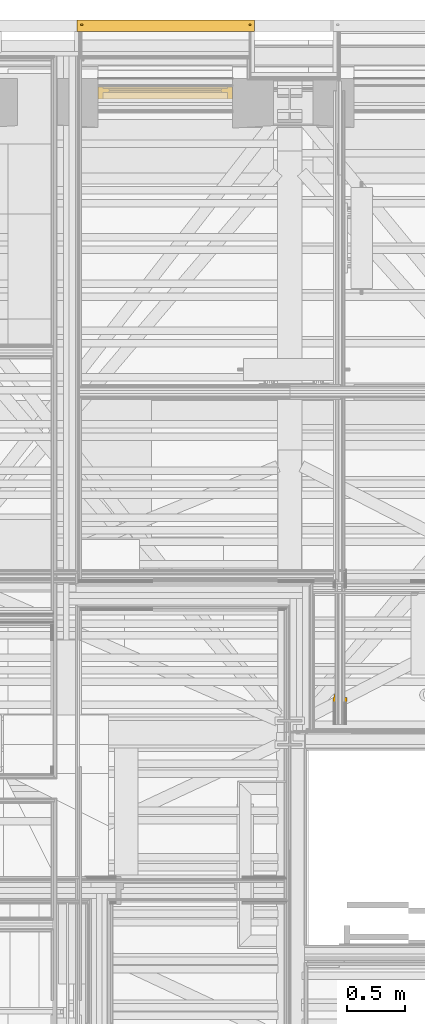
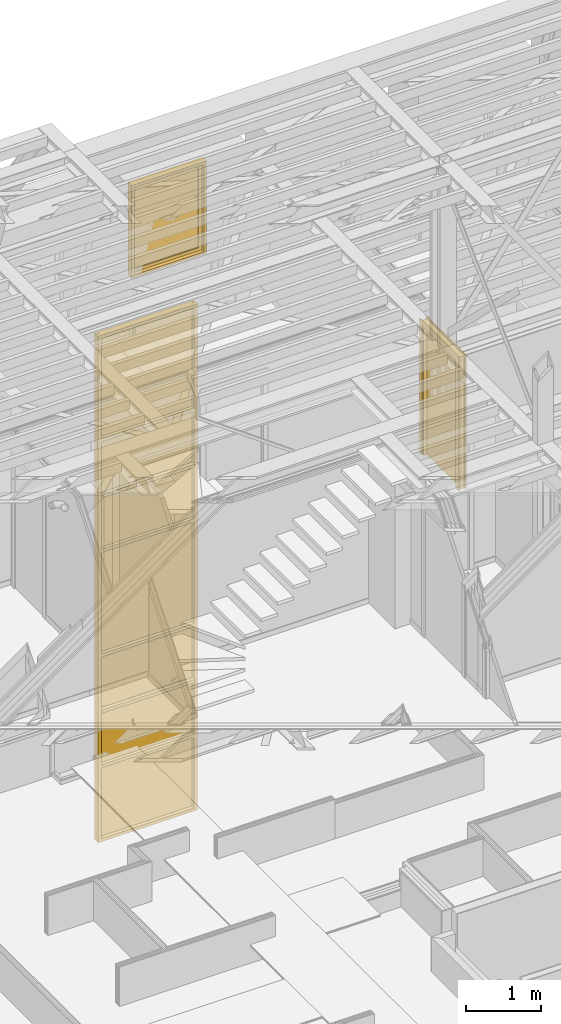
# One storey, part 127 of 183: 1 curtain wall, 1 door, 1 window.
"""IFC2X3 building model written with IfcOpenShell, lengths in metres."""

from ifc_helpers import new_model, entity, si_unit, converted_unit, derived_unit, money_unit, direction, frame, origin_with_axes, place, context, subcontext, project, spatial, faceted_brep, material, type_object, element, save


model = new_model("IFC2X3")

# Units and contexts
model_context = context("Model", 3, precision=1e-05, world=origin_with_axes(), true_north=direction((0.0, 1.0)))
body_context = subcontext(model_context, "Body", "Model", "MODEL_VIEW", scale=1.0)
ifc_project = project(units=[si_unit("LENGTHUNIT", "METRE"), si_unit("AREAUNIT", "SQUARE_METRE"), si_unit("VOLUMEUNIT", "CUBIC_METRE"), si_unit("ABSORBEDDOSEUNIT", "GRAY"), si_unit("AMOUNTOFSUBSTANCEUNIT", "MOLE"), si_unit("DOSEEQUIVALENTUNIT", "SIEVERT"), si_unit("ELECTRICCAPACITANCEUNIT", "FARAD"), si_unit("ELECTRICCHARGEUNIT", "COULOMB"), si_unit("ELECTRICCONDUCTANCEUNIT", "SIEMENS"), si_unit("ELECTRICCURRENTUNIT", "AMPERE"), si_unit("ELECTRICRESISTANCEUNIT", "OHM"), si_unit("ELECTRICVOLTAGEUNIT", "VOLT"), si_unit("ENERGYUNIT", "JOULE"), si_unit("FORCEUNIT", "NEWTON"), si_unit("FREQUENCYUNIT", "HERTZ"), si_unit("ILLUMINANCEUNIT", "LUX"), si_unit("INDUCTANCEUNIT", "HENRY"), si_unit("LUMINOUSFLUXUNIT", "LUMEN"), si_unit("LUMINOUSINTENSITYUNIT", "CANDELA"), si_unit("MAGNETICFLUXDENSITYUNIT", "TESLA"), si_unit("MAGNETICFLUXUNIT", "WEBER"), si_unit("MASSUNIT", "GRAM"), converted_unit("PLANEANGLEUNIT", "degree", entity("IfcReal", 0.0174532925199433), si_unit("PLANEANGLEUNIT", "RADIAN"), dimensions=[0, 0, 0, 0, 0, 0, 0]), si_unit("POWERUNIT", "WATT"), si_unit("PRESSUREUNIT", "PASCAL"), si_unit("RADIOACTIVITYUNIT", "BECQUEREL"), si_unit("SOLIDANGLEUNIT", "STERADIAN"), si_unit("THERMODYNAMICTEMPERATUREUNIT", "KELVIN"), si_unit("TIMEUNIT", "SECOND"), derived_unit("ACCELERATIONUNIT", [(si_unit("LENGTHUNIT", "METRE"), 1), (si_unit("TIMEUNIT", "SECOND"), -2)]), derived_unit("ANGULARVELOCITYUNIT", [(converted_unit("PLANEANGLEUNIT", "degree", entity("IfcReal", 0.0174532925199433), si_unit("PLANEANGLEUNIT", "RADIAN"), dimensions=[0, 0, 0, 0, 0, 0, 0]), 1), (si_unit("TIMEUNIT", "SECOND"), -1)]), derived_unit("CURVATUREUNIT", [(converted_unit("PLANEANGLEUNIT", "degree", entity("IfcReal", 0.0174532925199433), si_unit("PLANEANGLEUNIT", "RADIAN"), dimensions=[0, 0, 0, 0, 0, 0, 0]), 1), (si_unit("LENGTHUNIT", "METRE"), -1)]), derived_unit("DYNAMICVISCOSITYUNIT", [(si_unit("PRESSUREUNIT", "PASCAL"), 1), (si_unit("TIMEUNIT", "SECOND"), 1)]), derived_unit("HEATFLUXDENSITYUNIT", [(si_unit("POWERUNIT", "WATT"), 1), (si_unit("LENGTHUNIT", "METRE"), -2)]), derived_unit("HEATINGVALUEUNIT", [(si_unit("ENERGYUNIT", "JOULE"), 1), (si_unit("MASSUNIT", "GRAM"), -1)]), derived_unit("INTEGERCOUNTRATEUNIT", [(si_unit("TIMEUNIT", "SECOND"), -1)]), derived_unit("IONCONCENTRATIONUNIT", [(si_unit("MASSUNIT", "GRAM"), 1), (si_unit("VOLUMEUNIT", "CUBIC_METRE"), -1)]), derived_unit("ISOTHERMALMOISTURECAPACITYUNIT", [(si_unit("VOLUMEUNIT", "CUBIC_METRE"), 1), (si_unit("MASSUNIT", "GRAM"), -1)]), derived_unit("KINEMATICVISCOSITYUNIT", [(si_unit("AREAUNIT", "SQUARE_METRE"), 1), (si_unit("TIMEUNIT", "SECOND"), -1)]), derived_unit("LINEARFORCEUNIT", [(si_unit("FORCEUNIT", "NEWTON"), 1), (si_unit("LENGTHUNIT", "METRE"), -1)]), derived_unit("LINEARMOMENTUNIT", [(si_unit("FORCEUNIT", "NEWTON"), 1), (si_unit("LENGTHUNIT", "METRE"), -1)]), derived_unit("LINEARSTIFFNESSUNIT", [(si_unit("FORCEUNIT", "NEWTON"), 1), (si_unit("LENGTHUNIT", "METRE"), -1)]), derived_unit("LINEARVELOCITYUNIT", [(si_unit("LENGTHUNIT", "METRE"), 1), (si_unit("TIMEUNIT", "SECOND"), -1)]), derived_unit("LUMINOUSINTENSITYDISTRIBUTIONUNIT", [(si_unit("LUMINOUSINTENSITYUNIT", "CANDELA"), 1), (si_unit("LUMINOUSFLUXUNIT", "LUMEN"), -1)]), derived_unit("MASSDENSITYUNIT", [(si_unit("MASSUNIT", "GRAM"), 1), (si_unit("VOLUMEUNIT", "CUBIC_METRE"), -1)]), derived_unit("MASSFLOWRATEUNIT", [(si_unit("MASSUNIT", "GRAM"), 1), (si_unit("TIMEUNIT", "SECOND"), -1)]), derived_unit("MASSPERLENGTHUNIT", [(si_unit("MASSUNIT", "GRAM"), 1), (si_unit("LENGTHUNIT", "METRE"), -1)]), derived_unit("MODULUSOFELASTICITYUNIT", [(si_unit("FORCEUNIT", "NEWTON"), 1), (si_unit("AREAUNIT", "SQUARE_METRE"), -1)]), derived_unit("MODULUSOFLINEARSUBGRADEREACTIONUNIT", [(si_unit("FORCEUNIT", "NEWTON"), 1), (si_unit("LENGTHUNIT", "METRE"), -2)]), derived_unit("MODULUSOFROTATIONALSUBGRADEREACTIONUNIT", [(si_unit("FORCEUNIT", "NEWTON"), 1), (si_unit("LENGTHUNIT", "METRE"), 1)]), derived_unit("MODULUSOFSUBGRADEREACTIONUNIT", [(si_unit("FORCEUNIT", "NEWTON"), 1), (si_unit("VOLUMEUNIT", "CUBIC_METRE"), -1)]), derived_unit("MOISTUREDIFFUSIVITYUNIT", [(si_unit("VOLUMEUNIT", "CUBIC_METRE"), 1), (si_unit("TIMEUNIT", "SECOND"), -1)]), derived_unit("MOLECULARWEIGHTUNIT", [(si_unit("MASSUNIT", "GRAM"), 1), (si_unit("AMOUNTOFSUBSTANCEUNIT", "MOLE"), -1)]), derived_unit("PLANARFORCEUNIT", [(si_unit("FORCEUNIT", "NEWTON"), 1), (si_unit("LENGTHUNIT", "METRE"), -2)]), derived_unit("ROTATIONALFREQUENCYUNIT", [(si_unit("TIMEUNIT", "SECOND"), -1)]), derived_unit("ROTATIONALMASSUNIT", [(si_unit("MASSUNIT", "GRAM"), 1), (si_unit("LENGTHUNIT", "METRE"), 2)]), derived_unit("ROTATIONALSTIFFNESSUNIT", [(si_unit("FORCEUNIT", "NEWTON"), 1), (si_unit("LENGTHUNIT", "METRE"), 1), (converted_unit("PLANEANGLEUNIT", "degree", entity("IfcReal", 0.0174532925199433), si_unit("PLANEANGLEUNIT", "RADIAN"), dimensions=[0, 0, 0, 0, 0, 0, 0]), -1)]), derived_unit("SECTIONAREAINTEGRALUNIT", [(si_unit("LENGTHUNIT", "METRE"), 5)]), derived_unit("SECTIONMODULUSUNIT", [(si_unit("LENGTHUNIT", "METRE"), 3)]), derived_unit("SHEARMODULUSUNIT", [(si_unit("FORCEUNIT", "NEWTON"), 1), (si_unit("AREAUNIT", "SQUARE_METRE"), -1)]), derived_unit("SOUNDPOWERUNIT", [(si_unit("ENERGYUNIT", "JOULE"), 1), (si_unit("TIMEUNIT", "SECOND"), -1)]), derived_unit("SPECIFICHEATCAPACITYUNIT", [(si_unit("FORCEUNIT", "NEWTON"), 1), (si_unit("MASSUNIT", "GRAM"), -1), (si_unit("THERMODYNAMICTEMPERATUREUNIT", "KELVIN"), -1)]), derived_unit("TEMPERATUREGRADIENTUNIT", [(si_unit("THERMODYNAMICTEMPERATUREUNIT", "KELVIN"), 1), (si_unit("LENGTHUNIT", "METRE"), -1)]), derived_unit("THERMALADMITTANCEUNIT", [(si_unit("POWERUNIT", "WATT"), 1), (si_unit("AREAUNIT", "SQUARE_METRE"), -1), (si_unit("THERMODYNAMICTEMPERATUREUNIT", "KELVIN"), -1)]), derived_unit("THERMALCONDUCTANCEUNIT", [(si_unit("POWERUNIT", "WATT"), 1), (si_unit("LENGTHUNIT", "METRE"), -1), (si_unit("THERMODYNAMICTEMPERATUREUNIT", "KELVIN"), -1)]), derived_unit("THERMALEXPANSIONCOEFFICIENTUNIT", [(si_unit("THERMODYNAMICTEMPERATUREUNIT", "KELVIN"), -1)]), derived_unit("THERMALRESISTANCEUNIT", [(si_unit("AREAUNIT", "SQUARE_METRE"), 1), (si_unit("POWERUNIT", "WATT"), -1)]), derived_unit("THERMALTRANSMITTANCEUNIT", [(si_unit("POWERUNIT", "WATT"), 1), (si_unit("AREAUNIT", "SQUARE_METRE"), -1), (si_unit("THERMODYNAMICTEMPERATUREUNIT", "KELVIN"), -1)]), derived_unit("TORQUEUNIT", [(si_unit("FORCEUNIT", "NEWTON"), 1), (si_unit("LENGTHUNIT", "METRE"), 1)]), derived_unit("VAPORPERMEABILITYUNIT", [(si_unit("MASSUNIT", "GRAM"), 1), (si_unit("TIMEUNIT", "SECOND"), -1)]), derived_unit("VOLUMETRICFLOWRATEUNIT", [(si_unit("VOLUMEUNIT", "CUBIC_METRE"), 1), (si_unit("TIMEUNIT", "SECOND"), -1)]), derived_unit("WARPINGCONSTANTUNIT", [(si_unit("LENGTHUNIT", "METRE"), 6)]), derived_unit("WARPINGMOMENTUNIT", [(si_unit("FORCEUNIT", "NEWTON"), 1), (si_unit("LENGTHUNIT", "METRE"), 2)]), money_unit("GBP")], contexts=[model_context])

# Site, building, storey
site_placement = place(None, origin_with_axes())
site = spatial("IfcSite", under=ifc_project, at=site_placement, Name="Site", CompositionType="ELEMENT")
building_placement = place(site_placement, origin_with_axes())
building = spatial("IfcBuilding", under=site, at=building_placement, Name="Building01", CompositionType="ELEMENT")
storey_placement = place(building_placement, frame((0.0, 0.0, 5.15), z_axis=(0.0, 0.0, 1.0), x_axis=(1.0, 0.0, 0.0)))
storey = spatial("IfcBuildingStorey", under=building, at=storey_placement, Name="1F", CompositionType="ELEMENT", Elevation=5.15)

# Curtain wall
ifc_material_1 = material(Name="A-CurtainWall_Frame")
curtain_wall_type = type_object("IfcCurtainWallType", Name="Pattern - Maximum Spacing", PredefinedType="NOTDEFINED")
curtain_wall_placement = place(storey_placement, frame((0.0, 0.0, -5.15), z_axis=(0.0, 0.0, 1.0), x_axis=(1.0, 0.0, 0.0)))
element("IfcCurtainWall", 1, at=curtain_wall_placement, inside=storey, type_object=curtain_wall_type, material=ifc_material_1, Name="09", ObjectType="Pattern - Maximum Spacing", context=body_context, shape_type="Brep", body=[
    faceted_brep([(8.76, 14.855, 7.716517), (8.76, 14.865, 7.716517), (7.3, 14.865, 7.716517), (7.3, 14.855, 7.716517), (8.76, 14.855, 6.530918), (8.76, 14.865, 6.530918), (7.3, 14.855, 6.530918), (7.3, 14.865, 6.530918)], [[[0, 1, 2, 3]], [[4, 5, 1, 0]], [[6, 7, 5, 4]], [[3, 2, 7, 6]], [[1, 5, 7, 2]], [[3, 6, 4, 0]]]),
    faceted_brep([(7.27, 14.9, 6.500918), (7.32, 14.9, 6.500918), (7.32, 14.865, 6.500918), (7.3, 14.865, 6.500918), (7.3, 14.855, 6.500918), (7.32, 14.855, 6.500918), (7.32, 14.8, 6.500918), (7.27, 14.8, 6.500918), (7.27, 14.8, 7.721517), (7.27, 14.9, 7.721517), (7.32, 14.9, 7.721517), (7.32, 14.865, 7.721517), (7.3, 14.865, 7.721517), (7.3, 14.855, 7.721517), (7.32, 14.855, 7.721517), (7.32, 14.8, 7.721517)], [[[0, 1, 2, 3, 4, 5, 6, 7]], [[7, 8, 9, 0]], [[0, 9, 10, 1]], [[1, 10, 11, 2]], [[2, 11, 12, 3]], [[3, 12, 13, 4]], [[4, 13, 14, 5]], [[5, 14, 15, 6]], [[6, 15, 8, 7]]]),
    faceted_brep([(8.74, 14.9, 6.550918), (8.74, 14.865, 6.550918), (8.74, 14.865, 6.530918), (8.74, 14.855, 6.530918), (8.74, 14.855, 6.550918), (8.74, 14.8, 6.550918), (8.74, 14.8, 6.500918), (8.74, 14.9, 6.500918), (7.32, 14.9, 6.500918), (7.32, 14.9, 6.550918), (7.32, 14.865, 6.550918), (7.32, 14.865, 6.530918), (7.32, 14.855, 6.530918), (7.32, 14.855, 6.550918), (7.32, 14.8, 6.550918), (7.32, 14.8, 6.500918)], [[[0, 1, 2, 3, 4, 5, 6, 7]], [[7, 8, 9, 0]], [[0, 9, 10, 1]], [[1, 10, 11, 2]], [[2, 11, 12, 3]], [[3, 12, 13, 4]], [[4, 13, 14, 5]], [[5, 14, 15, 6]], [[6, 15, 8, 7]], [[8, 15, 14, 13, 12, 11, 10, 9]]]),
    faceted_brep([(8.79, 14.9, 6.500918), (8.79, 14.9, 7.721517), (8.79, 14.8, 7.721517), (8.79, 14.8, 6.500918), (8.74, 14.9, 6.500918), (8.74, 14.9, 7.721517), (8.74, 14.865, 6.500918), (8.74, 14.865, 7.721517), (8.76, 14.865, 6.500918), (8.76, 14.865, 7.721517), (8.76, 14.855, 6.500918), (8.76, 14.855, 7.721517), (8.74, 14.855, 6.500918), (8.74, 14.855, 7.721517), (8.74, 14.8, 6.500918), (8.74, 14.8, 7.721517)], [[[0, 1, 2, 3]], [[4, 5, 1, 0]], [[6, 7, 5, 4]], [[8, 9, 7, 6]], [[10, 11, 9, 8]], [[12, 13, 11, 10]], [[14, 15, 13, 12]], [[3, 2, 15, 14]], [[14, 12, 10, 8, 6, 4, 0, 3]]]),
    faceted_brep([(7.32, 14.855, 7.726517), (7.32, 14.865, 7.726517), (7.32, 14.865, 7.746517), (7.32, 14.9, 7.746517), (7.32, 14.9, 7.696517), (7.32, 14.865, 7.696517), (7.32, 14.865, 7.716517), (7.32, 14.855, 7.716517), (7.32, 14.855, 7.696517), (7.32, 14.8, 7.696517), (7.32, 14.8, 7.746517), (7.32, 14.855, 7.746517), (8.74, 14.855, 7.746517), (8.74, 14.855, 7.726517), (8.74, 14.865, 7.726517), (8.74, 14.865, 7.746517), (8.74, 14.9, 7.746517), (8.74, 14.9, 7.696517), (8.74, 14.865, 7.696517), (8.74, 14.855, 7.716517), (8.74, 14.855, 7.696517), (8.74, 14.865, 7.716517), (8.74, 14.8, 7.746517), (8.74, 14.8, 7.696517)], [[[0, 1, 2, 3, 4, 5, 6, 7, 8, 9, 10, 11]], [[11, 12, 13, 0]], [[0, 13, 14, 1]], [[1, 14, 15, 2]], [[2, 15, 16, 3]], [[3, 16, 17, 4]], [[4, 17, 18, 5]], [[7, 19, 20, 8]], [[6, 21, 19, 7]], [[5, 18, 21, 6]], [[10, 22, 12, 11]], [[9, 23, 22, 10]], [[8, 20, 23, 9]], [[20, 19, 21, 18, 17, 16, 15, 14, 13, 12, 22, 23]]]),
    faceted_brep([(8.76, 14.85, 8.613217), (8.76, 14.87, 8.613217), (7.3, 14.87, 8.613217), (7.3, 14.85, 8.613217), (8.76, 14.85, 7.726517), (8.76, 14.87, 7.726517), (7.3, 14.85, 7.726517), (7.3, 14.87, 7.726517)], [[[0, 1, 2, 3]], [[4, 5, 1, 0]], [[6, 7, 5, 4]], [[3, 2, 7, 6]], [[1, 5, 7, 2]], [[3, 6, 4, 0]]]),
    faceted_brep([(7.32, 14.8, 8.618217), (7.32, 14.8, 7.721517), (7.32, 14.855, 7.721517), (7.32, 14.855, 8.618217), (7.27, 14.8, 8.618217), (7.27, 14.8, 7.721517), (7.27, 14.9, 8.618217), (7.27, 14.9, 7.721517), (7.32, 14.9, 8.618217), (7.32, 14.9, 7.721517), (7.32, 14.865, 8.618217), (7.32, 14.865, 7.721517), (7.3, 14.865, 8.618217), (7.3, 14.865, 7.721517), (7.3, 14.855, 8.618217), (7.3, 14.855, 7.721517)], [[[0, 1, 2, 3]], [[4, 5, 1, 0]], [[6, 7, 5, 4]], [[8, 9, 7, 6]], [[10, 11, 9, 8]], [[12, 13, 11, 10]], [[14, 15, 13, 12]], [[3, 2, 15, 14]]]),
    faceted_brep([(8.79, 14.9, 7.721517), (8.79, 14.9, 8.618217), (8.79, 14.8, 8.618217), (8.79, 14.8, 7.721517), (8.74, 14.9, 7.721517), (8.74, 14.9, 8.618217), (8.74, 14.865, 7.721517), (8.74, 14.865, 8.618217), (8.76, 14.865, 7.721517), (8.76, 14.865, 8.618217), (8.76, 14.855, 7.721517), (8.76, 14.855, 8.618217), (8.74, 14.855, 7.721517), (8.74, 14.855, 8.618217), (8.74, 14.8, 7.721517), (8.74, 14.8, 8.618217)], [[[0, 1, 2, 3]], [[4, 5, 1, 0]], [[6, 7, 5, 4]], [[8, 9, 7, 6]], [[10, 11, 9, 8]], [[12, 13, 11, 10]], [[14, 15, 13, 12]], [[3, 2, 15, 14]]]),
    faceted_brep([(7.32, 14.8375, 8.623217), (7.32, 14.8475, 8.623217), (7.32, 14.8475, 8.643217), (7.32, 14.8825, 8.643217), (7.32, 14.8825, 8.593217), (7.32, 14.8475, 8.593217), (7.32, 14.8475, 8.613217), (7.32, 14.8375, 8.613217), (7.32, 14.8375, 8.593217), (7.32, 14.7825, 8.593217), (7.32, 14.7825, 8.643217), (7.32, 14.8375, 8.643217), (8.74, 14.8375, 8.643217), (8.74, 14.8375, 8.623217), (8.74, 14.8475, 8.623217), (8.74, 14.8475, 8.643217), (8.74, 14.8825, 8.643217), (8.74, 14.8825, 8.593217), (8.74, 14.8475, 8.593217), (8.74, 14.8375, 8.613217), (8.74, 14.8375, 8.593217), (8.74, 14.8475, 8.613217), (8.74, 14.7825, 8.643217), (8.74, 14.7825, 8.593217)], [[[0, 1, 2, 3, 4, 5, 6, 7, 8, 9, 10, 11]], [[11, 12, 13, 0]], [[0, 13, 14, 1]], [[1, 14, 15, 2]], [[2, 15, 16, 3]], [[3, 16, 17, 4]], [[4, 17, 18, 5]], [[7, 19, 20, 8]], [[6, 21, 19, 7]], [[5, 18, 21, 6]], [[10, 22, 12, 11]], [[9, 23, 22, 10]], [[8, 20, 23, 9]], [[20, 19, 21, 18, 17, 16, 15, 14, 13, 12, 22, 23]]]),
    faceted_brep([(8.76, 14.85, 9.509916), (8.76, 14.87, 9.509916), (7.3, 14.87, 9.509916), (7.3, 14.85, 9.509916), (8.76, 14.85, 8.623217), (8.76, 14.87, 8.623217), (7.3, 14.85, 8.623217), (7.3, 14.87, 8.623217)], [[[0, 1, 2, 3]], [[4, 5, 1, 0]], [[6, 7, 5, 4]], [[3, 2, 7, 6]], [[1, 5, 7, 2]], [[3, 6, 4, 0]]]),
    faceted_brep([(7.32, 14.8, 9.514916), (7.32, 14.8, 8.618217), (7.32, 14.855, 8.618217), (7.32, 14.855, 9.514916), (7.27, 14.8, 9.514916), (7.27, 14.8, 8.618217), (7.27, 14.9, 9.514916), (7.27, 14.9, 8.618217), (7.32, 14.9, 9.514916), (7.32, 14.9, 8.618217), (7.32, 14.865, 9.514916), (7.32, 14.865, 8.618217), (7.3, 14.865, 9.514916), (7.3, 14.865, 8.618217), (7.3, 14.855, 9.514916), (7.3, 14.855, 8.618217)], [[[0, 1, 2, 3]], [[4, 5, 1, 0]], [[6, 7, 5, 4]], [[8, 9, 7, 6]], [[10, 11, 9, 8]], [[12, 13, 11, 10]], [[14, 15, 13, 12]], [[3, 2, 15, 14]]]),
    faceted_brep([(8.79, 14.9, 8.618217), (8.79, 14.9, 9.514916), (8.79, 14.8, 9.514916), (8.79, 14.8, 8.618217), (8.74, 14.9, 8.618217), (8.74, 14.9, 9.514916), (8.74, 14.865, 8.618217), (8.74, 14.865, 9.514916), (8.76, 14.865, 8.618217), (8.76, 14.865, 9.514916), (8.76, 14.855, 8.618217), (8.76, 14.855, 9.514916), (8.74, 14.855, 8.618217), (8.74, 14.855, 9.514916), (8.74, 14.8, 8.618217), (8.74, 14.8, 9.514916)], [[[0, 1, 2, 3]], [[4, 5, 1, 0]], [[6, 7, 5, 4]], [[8, 9, 7, 6]], [[10, 11, 9, 8]], [[12, 13, 11, 10]], [[14, 15, 13, 12]], [[3, 2, 15, 14]]]),
    faceted_brep([(7.32, 14.855, 9.519916), (7.32, 14.865, 9.519916), (7.32, 14.865, 9.539916), (7.32, 14.9, 9.539916), (7.32, 14.9, 9.489916), (7.32, 14.865, 9.489916), (7.32, 14.865, 9.509916), (7.32, 14.855, 9.509916), (7.32, 14.855, 9.489916), (7.32, 14.8, 9.489916), (7.32, 14.8, 9.539916), (7.32, 14.855, 9.539916), (8.74, 14.855, 9.539916), (8.74, 14.855, 9.519916), (8.74, 14.865, 9.519916), (8.74, 14.865, 9.539916), (8.74, 14.9, 9.539916), (8.74, 14.9, 9.489916), (8.74, 14.865, 9.489916), (8.74, 14.855, 9.509916), (8.74, 14.855, 9.489916), (8.74, 14.865, 9.509916), (8.74, 14.8, 9.539916), (8.74, 14.8, 9.489916)], [[[0, 1, 2, 3, 4, 5, 6, 7, 8, 9, 10, 11]], [[11, 12, 13, 0]], [[0, 13, 14, 1]], [[1, 14, 15, 2]], [[2, 15, 16, 3]], [[3, 16, 17, 4]], [[4, 17, 18, 5]], [[7, 19, 20, 8]], [[6, 21, 19, 7]], [[5, 18, 21, 6]], [[10, 22, 12, 11]], [[9, 23, 22, 10]], [[8, 20, 23, 9]], [[20, 19, 21, 18, 17, 16, 15, 14, 13, 12, 22, 23]]]),
    faceted_brep([(8.76, 14.855, 11.203681), (8.76, 14.865, 11.203681), (7.3, 14.865, 11.203681), (7.3, 14.855, 11.203681), (8.76, 14.855, 9.519916), (8.76, 14.865, 9.519916), (7.3, 14.855, 9.519916), (7.3, 14.865, 9.519916)], [[[0, 1, 2, 3]], [[4, 5, 1, 0]], [[6, 7, 5, 4]], [[3, 2, 7, 6]], [[1, 5, 7, 2]], [[3, 6, 4, 0]]]),
    faceted_brep([(7.32, 14.8, 11.208681), (7.32, 14.8, 9.514916), (7.32, 14.855, 9.514916), (7.32, 14.855, 11.208681), (7.27, 14.8, 11.208681), (7.27, 14.8, 9.514916), (7.27, 14.9, 11.208681), (7.27, 14.9, 9.514916), (7.32, 14.9, 11.208681), (7.32, 14.9, 9.514916), (7.32, 14.865, 11.208681), (7.32, 14.865, 9.514916), (7.3, 14.865, 11.208681), (7.3, 14.865, 9.514916), (7.3, 14.855, 11.208681), (7.3, 14.855, 9.514916)], [[[0, 1, 2, 3]], [[4, 5, 1, 0]], [[6, 7, 5, 4]], [[8, 9, 7, 6]], [[10, 11, 9, 8]], [[12, 13, 11, 10]], [[14, 15, 13, 12]], [[3, 2, 15, 14]]]),
    faceted_brep([(8.79, 14.9, 9.514916), (8.79, 14.9, 11.208681), (8.79, 14.8, 11.208681), (8.79, 14.8, 9.514916), (8.74, 14.9, 9.514916), (8.74, 14.9, 11.208681), (8.74, 14.865, 9.514916), (8.74, 14.865, 11.208681), (8.76, 14.865, 9.514916), (8.76, 14.865, 11.208681), (8.76, 14.855, 9.514916), (8.76, 14.855, 11.208681), (8.74, 14.855, 9.514916), (8.74, 14.855, 11.208681), (8.74, 14.8, 9.514916), (8.74, 14.8, 11.208681)], [[[0, 1, 2, 3]], [[4, 5, 1, 0]], [[6, 7, 5, 4]], [[8, 9, 7, 6]], [[10, 11, 9, 8]], [[12, 13, 11, 10]], [[14, 15, 13, 12]], [[3, 2, 15, 14]]]),
    faceted_brep([(7.32, 14.855, 11.213681), (7.32, 14.865, 11.213681), (7.32, 14.865, 11.233681), (7.32, 14.9, 11.233681), (7.32, 14.9, 11.183681), (7.32, 14.865, 11.183681), (7.32, 14.865, 11.203681), (7.32, 14.855, 11.203681), (7.32, 14.855, 11.183681), (7.32, 14.8, 11.183681), (7.32, 14.8, 11.233681), (7.32, 14.855, 11.233681), (8.74, 14.855, 11.233681), (8.74, 14.855, 11.213681), (8.74, 14.865, 11.213681), (8.74, 14.865, 11.233681), (8.74, 14.9, 11.233681), (8.74, 14.9, 11.183681), (8.74, 14.865, 11.183681), (8.74, 14.855, 11.203681), (8.74, 14.855, 11.183681), (8.74, 14.865, 11.203681), (8.74, 14.8, 11.233681), (8.74, 14.8, 11.183681)], [[[0, 1, 2, 3, 4, 5, 6, 7, 8, 9, 10, 11]], [[11, 12, 13, 0]], [[0, 13, 14, 1]], [[1, 14, 15, 2]], [[2, 15, 16, 3]], [[3, 16, 17, 4]], [[4, 17, 18, 5]], [[7, 19, 20, 8]], [[6, 21, 19, 7]], [[5, 18, 21, 6]], [[10, 22, 12, 11]], [[9, 23, 22, 10]], [[8, 20, 23, 9]], [[20, 19, 21, 18, 17, 16, 15, 14, 13, 12, 22, 23]]]),
    faceted_brep([(8.76, 14.85, 12.10038), (8.76, 14.87, 12.10038), (7.3, 14.87, 12.10038), (7.3, 14.85, 12.10038), (8.76, 14.85, 11.213681), (8.76, 14.87, 11.213681), (7.3, 14.85, 11.213681), (7.3, 14.87, 11.213681)], [[[0, 1, 2, 3]], [[4, 5, 1, 0]], [[6, 7, 5, 4]], [[3, 2, 7, 6]], [[1, 5, 7, 2]], [[3, 6, 4, 0]]]),
    faceted_brep([(7.32, 14.8, 12.10538), (7.32, 14.8, 11.208681), (7.32, 14.855, 11.208681), (7.32, 14.855, 12.10538), (7.27, 14.8, 12.10538), (7.27, 14.8, 11.208681), (7.27, 14.9, 12.10538), (7.27, 14.9, 11.208681), (7.32, 14.9, 12.10538), (7.32, 14.9, 11.208681), (7.32, 14.865, 12.10538), (7.32, 14.865, 11.208681), (7.3, 14.865, 12.10538), (7.3, 14.865, 11.208681), (7.3, 14.855, 12.10538), (7.3, 14.855, 11.208681)], [[[0, 1, 2, 3]], [[4, 5, 1, 0]], [[6, 7, 5, 4]], [[8, 9, 7, 6]], [[10, 11, 9, 8]], [[12, 13, 11, 10]], [[14, 15, 13, 12]], [[3, 2, 15, 14]]]),
    faceted_brep([(8.79, 14.9, 11.208681), (8.79, 14.9, 12.10538), (8.79, 14.8, 12.10538), (8.79, 14.8, 11.208681), (8.74, 14.9, 11.208681), (8.74, 14.9, 12.10538), (8.74, 14.865, 11.208681), (8.74, 14.865, 12.10538), (8.76, 14.865, 11.208681), (8.76, 14.865, 12.10538), (8.76, 14.855, 11.208681), (8.76, 14.855, 12.10538), (8.74, 14.855, 11.208681), (8.74, 14.855, 12.10538), (8.74, 14.8, 11.208681), (8.74, 14.8, 12.10538)], [[[0, 1, 2, 3]], [[4, 5, 1, 0]], [[6, 7, 5, 4]], [[8, 9, 7, 6]], [[10, 11, 9, 8]], [[12, 13, 11, 10]], [[14, 15, 13, 12]], [[3, 2, 15, 14]]]),
    faceted_brep([(7.32, 14.8375, 12.11038), (7.32, 14.8475, 12.11038), (7.32, 14.8475, 12.13038), (7.32, 14.8825, 12.13038), (7.32, 14.8825, 12.08038), (7.32, 14.8475, 12.08038), (7.32, 14.8475, 12.10038), (7.32, 14.8375, 12.10038), (7.32, 14.8375, 12.08038), (7.32, 14.7825, 12.08038), (7.32, 14.7825, 12.13038), (7.32, 14.8375, 12.13038), (8.74, 14.8375, 12.13038), (8.74, 14.8375, 12.11038), (8.74, 14.8475, 12.11038), (8.74, 14.8475, 12.13038), (8.74, 14.8825, 12.13038), (8.74, 14.8825, 12.08038), (8.74, 14.8475, 12.08038), (8.74, 14.8375, 12.10038), (8.74, 14.8375, 12.08038), (8.74, 14.8475, 12.10038), (8.74, 14.7825, 12.13038), (8.74, 14.7825, 12.08038)], [[[0, 1, 2, 3, 4, 5, 6, 7, 8, 9, 10, 11]], [[11, 12, 13, 0]], [[0, 13, 14, 1]], [[1, 14, 15, 2]], [[2, 15, 16, 3]], [[3, 16, 17, 4]], [[4, 17, 18, 5]], [[7, 19, 20, 8]], [[6, 21, 19, 7]], [[5, 18, 21, 6]], [[10, 22, 12, 11]], [[9, 23, 22, 10]], [[8, 20, 23, 9]], [[20, 19, 21, 18, 17, 16, 15, 14, 13, 12, 22, 23]]]),
    faceted_brep([(7.3, 14.855, 13.00708), (7.3, 14.865, 13.00708), (8.76, 14.865, 13.00708), (8.76, 14.855, 13.00708), (7.3, 14.855, 14.670918), (7.3, 14.865, 14.670918), (8.76, 14.855, 14.670918), (8.76, 14.865, 14.670918)], [[[0, 1, 2, 3]], [[4, 5, 1, 0]], [[6, 7, 5, 4]], [[3, 2, 7, 6]], [[1, 5, 7, 2]], [[3, 6, 4, 0]]]),
    faceted_brep([(8.79, 14.9, 14.700918), (8.74, 14.9, 14.700918), (8.74, 14.865, 14.700918), (8.76, 14.865, 14.700918), (8.76, 14.855, 14.700918), (8.74, 14.855, 14.700918), (8.74, 14.8, 14.700918), (8.79, 14.8, 14.700918), (8.79, 14.8, 13.00208), (8.79, 14.9, 13.00208), (8.74, 14.9, 13.00208), (8.74, 14.865, 13.00208), (8.76, 14.865, 13.00208), (8.76, 14.855, 13.00208), (8.74, 14.855, 13.00208), (8.74, 14.8, 13.00208)], [[[0, 1, 2, 3, 4, 5, 6, 7]], [[7, 8, 9, 0]], [[0, 9, 10, 1]], [[1, 10, 11, 2]], [[2, 11, 12, 3]], [[3, 12, 13, 4]], [[4, 13, 14, 5]], [[5, 14, 15, 6]], [[6, 15, 8, 7]]]),
    faceted_brep([(7.32, 14.865, 14.670918), (7.32, 14.855, 14.670918), (7.32, 14.855, 14.650918), (7.32, 14.8, 14.650918), (7.32, 14.8, 14.700918), (7.32, 14.9, 14.700918), (7.32, 14.9, 14.650918), (7.32, 14.865, 14.650918), (8.74, 14.865, 14.650918), (8.74, 14.865, 14.670918), (8.74, 14.855, 14.670918), (8.74, 14.855, 14.650918), (8.74, 14.8, 14.650918), (8.74, 14.8, 14.700918), (8.74, 14.9, 14.700918), (8.74, 14.9, 14.650918)], [[[0, 1, 2, 3, 4, 5, 6, 7]], [[7, 8, 9, 0]], [[0, 9, 10, 1]], [[1, 10, 11, 2]], [[2, 11, 12, 3]], [[3, 12, 13, 4]], [[4, 13, 14, 5]], [[5, 14, 15, 6]], [[6, 15, 8, 7]], [[8, 15, 14, 13, 12, 11, 10, 9]]]),
    faceted_brep([(7.27, 14.9, 14.700918), (7.27, 14.9, 13.00208), (7.27, 14.8, 13.00208), (7.27, 14.8, 14.700918), (7.32, 14.9, 14.700918), (7.32, 14.9, 13.00208), (7.32, 14.865, 14.700918), (7.32, 14.865, 13.00208), (7.3, 14.865, 14.700918), (7.3, 14.865, 13.00208), (7.3, 14.855, 14.700918), (7.3, 14.855, 13.00208), (7.32, 14.855, 14.700918), (7.32, 14.855, 13.00208), (7.32, 14.8, 14.700918), (7.32, 14.8, 13.00208)], [[[0, 1, 2, 3]], [[4, 5, 1, 0]], [[6, 7, 5, 4]], [[8, 9, 7, 6]], [[10, 11, 9, 8]], [[12, 13, 11, 10]], [[14, 15, 13, 12]], [[3, 2, 15, 14]], [[14, 12, 10, 8, 6, 4, 0, 3]]]),
    faceted_brep([(8.74, 14.865, 13.00708), (8.74, 14.855, 13.00708), (8.74, 14.855, 13.02708), (8.74, 14.8, 13.02708), (8.74, 14.8, 12.97708), (8.74, 14.855, 12.97708), (8.74, 14.855, 12.99708), (8.74, 14.865, 12.99708), (8.74, 14.865, 12.97708), (8.74, 14.9, 12.97708), (8.74, 14.9, 13.02708), (8.74, 14.865, 13.02708), (7.32, 14.865, 13.02708), (7.32, 14.865, 13.00708), (7.32, 14.855, 13.00708), (7.32, 14.855, 13.02708), (7.32, 14.8, 13.02708), (7.32, 14.8, 12.97708), (7.32, 14.855, 12.97708), (7.32, 14.865, 12.99708), (7.32, 14.865, 12.97708), (7.32, 14.855, 12.99708), (7.32, 14.9, 13.02708), (7.32, 14.9, 12.97708)], [[[0, 1, 2, 3, 4, 5, 6, 7, 8, 9, 10, 11]], [[11, 12, 13, 0]], [[0, 13, 14, 1]], [[1, 14, 15, 2]], [[2, 15, 16, 3]], [[3, 16, 17, 4]], [[4, 17, 18, 5]], [[7, 19, 20, 8]], [[6, 21, 19, 7]], [[5, 18, 21, 6]], [[10, 22, 12, 11]], [[9, 23, 22, 10]], [[8, 20, 23, 9]], [[20, 19, 21, 18, 17, 16, 15, 14, 13, 12, 22, 23]]]),
    faceted_brep([(8.76, 14.85, 12.99708), (8.76, 14.87, 12.99708), (7.3, 14.87, 12.99708), (7.3, 14.85, 12.99708), (8.76, 14.85, 12.11038), (8.76, 14.87, 12.11038), (7.3, 14.85, 12.11038), (7.3, 14.87, 12.11038)], [[[0, 1, 2, 3]], [[4, 5, 1, 0]], [[6, 7, 5, 4]], [[3, 2, 7, 6]], [[1, 5, 7, 2]], [[3, 6, 4, 0]]]),
    faceted_brep([(7.32, 14.8, 13.00208), (7.32, 14.8, 12.10538), (7.32, 14.855, 12.10538), (7.32, 14.855, 13.00208), (7.27, 14.8, 13.00208), (7.27, 14.8, 12.10538), (7.27, 14.9, 13.00208), (7.27, 14.9, 12.10538), (7.32, 14.9, 13.00208), (7.32, 14.9, 12.10538), (7.32, 14.865, 13.00208), (7.32, 14.865, 12.10538), (7.3, 14.865, 13.00208), (7.3, 14.865, 12.10538), (7.3, 14.855, 13.00208), (7.3, 14.855, 12.10538)], [[[0, 1, 2, 3]], [[4, 5, 1, 0]], [[6, 7, 5, 4]], [[8, 9, 7, 6]], [[10, 11, 9, 8]], [[12, 13, 11, 10]], [[14, 15, 13, 12]], [[3, 2, 15, 14]]]),
    faceted_brep([(8.79, 14.9, 12.10538), (8.79, 14.9, 13.00208), (8.79, 14.8, 13.00208), (8.79, 14.8, 12.10538), (8.74, 14.9, 12.10538), (8.74, 14.9, 13.00208), (8.74, 14.865, 12.10538), (8.74, 14.865, 13.00208), (8.76, 14.865, 12.10538), (8.76, 14.865, 13.00208), (8.76, 14.855, 12.10538), (8.76, 14.855, 13.00208), (8.74, 14.855, 12.10538), (8.74, 14.855, 13.00208), (8.74, 14.8, 12.10538), (8.74, 14.8, 13.00208)], [[[0, 1, 2, 3]], [[4, 5, 1, 0]], [[6, 7, 5, 4]], [[8, 9, 7, 6]], [[10, 11, 9, 8]], [[12, 13, 11, 10]], [[14, 15, 13, 12]], [[3, 2, 15, 14]]]),
])

# Space
space_placement = place(storey_placement, frame((1.009939, 13.890379, 9.81), z_axis=(0.0, 0.0, 1.0), x_axis=(0.0, -1.0, 0.0)))
space = spatial("IfcSpace", under=storey, at=space_placement, Name="26", CompositionType="ELEMENT", InteriorOrExteriorSpace="NOTDEFINED")

# Window
ifc_material_2 = material(Name="A_BSUK_Windows")
window_style = type_object("IfcWindowStyle", Name="A-Awning", ConstructionType="NOTDEFINED", OperationType="USERDEFINED", ParameterTakesPrecedence=False, Sizeable=False)
window_placement = place(storey_placement, frame((7.450024, 14.350061, 10.78), z_axis=(0.0, 0.0, 1.0), x_axis=(-1.0, 0.0, 0.0)))
element("IfcWindow", 2, at=window_placement, inside=space, type_object=window_style, material=ifc_material_2, Name="4.16", ObjectType="A-Awning", OverallHeight=1.50000000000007, OverallWidth=1.15000000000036, context=body_context, shape_type="Brep", body=[
    faceted_brep([(-1.108, 0.0254, 0.042), (-0.042, 0.0254, 0.042), (-0.042, 0.1254, 0.042), (-1.108, 0.1254, 0.042), (-1.108, 0.0254, 1.458), (-1.108, 0.1254, 1.458), (-0.042, 0.0254, 1.458), (-0.042, 0.1254, 1.458), (0.0, 0.0254, 0.0), (0.0, 0.0254, 1.5), (-1.15, 0.0254, 1.5), (-1.15, 0.0254, 0.0), (0.0, 0.1254, 1.5), (-1.15, 0.1254, 1.5), (-1.15, 0.1254, 0.0), (0.0, 0.1254, 0.0)], [[[0, 1, 2, 3]], [[4, 0, 3, 5]], [[6, 4, 5, 7]], [[8, 9, 10, 11], [4, 6, 1, 0]], [[1, 6, 7, 2]], [[12, 13, 10, 9]], [[14, 15, 8, 11]], [[13, 14, 11, 10]], [[13, 12, 15, 14], [2, 7, 5, 3]], [[15, 12, 9, 8]]]),
    faceted_brep([(-1.0572, 0.0354, 0.0928), (-0.0928, 0.0354, 0.0928), (-0.0928, 0.0704, 0.0928), (-1.0572, 0.0704, 0.0928), (-1.0572, 0.0354, 1.4072), (-1.0572, 0.0704, 1.4072), (-0.0928, 0.0354, 1.4072), (-0.0928, 0.0704, 1.4072), (-1.108, 0.0704, 1.458), (-0.042, 0.0704, 1.458), (-0.042, 0.0704, 0.042), (-1.108, 0.0704, 0.042), (-1.108, 0.0354, 1.458), (-0.042, 0.0354, 1.458), (-0.042, 0.0354, 0.042), (-1.108, 0.0354, 0.042)], [[[0, 1, 2, 3]], [[4, 0, 3, 5]], [[6, 4, 5, 7]], [[8, 9, 10, 11], [2, 7, 5, 3]], [[9, 8, 12, 13]], [[10, 9, 13, 14]], [[11, 10, 14, 15]], [[8, 11, 15, 12]], [[14, 13, 12, 15], [4, 6, 1, 0]], [[1, 6, 7, 2]]]),
    faceted_brep([(-0.0928, 0.049725, 0.0928), (-0.0928, 0.056075, 0.0928), (-0.0928, 0.056075, 1.4072), (-0.0928, 0.049725, 1.4072), (-1.0572, 0.049725, 1.4072), (-1.0572, 0.056075, 1.4072), (-1.0572, 0.056075, 0.0928), (-1.0572, 0.049725, 0.0928)], [[[0, 1, 2, 3]], [[4, 5, 6, 7]], [[3, 2, 5, 4]], [[3, 4, 7, 0]], [[7, 6, 1, 0]], [[1, 6, 5, 2]]]),
])

# Door
ifc_material_3 = material(Name="A_BSUK_Doors")
door_style = type_object("IfcDoorStyle", Name="A-Doors-SingleFlush", ConstructionType="USERDEFINED", OperationType="SINGLE_SWING_RIGHT", ParameterTakesPrecedence=False, Sizeable=False)
door_placement = place(storey_placement, frame((9.560024, 9.999939, 9.78), z_axis=(0.0, 0.0, 1.0), x_axis=(0.0, -1.0, 0.0)))
element("IfcDoor", 3, at=door_placement, inside=space, type_object=door_style, material=ifc_material_3, Name="4.30", ObjectType="A-Doors-SingleFlush", OverallHeight=2.16900000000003, OverallWidth=1.03800000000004, context=body_context, shape_type="Brep", body=[
    faceted_brep([(0.9, -0.099, 0.0), (0.969, -0.099, 0.0), (0.969, -0.099, 2.169), (-0.069, -0.099, 2.169), (-0.069, -0.099, 0.0), (0.0, -0.099, 0.0), (0.0, -0.099, 2.1), (0.9, -0.099, 2.1), (-0.069, -0.08, 0.0), (-0.069, -0.08, 2.169), (0.969, -0.08, 2.169), (0.969, -0.08, 0.0), (0.9, 0.019, 0.0), (0.969, 0.019, 0.0), (0.969, 0.0, 0.0), (0.942, 0.0, 0.0), (0.942, -0.08, 0.0), (0.9, 0.019, 2.1), (0.0, 0.019, 2.1), (0.0, 0.019, 0.0), (-0.069, 0.019, 0.0), (-0.069, 0.019, 2.169), (0.969, 0.019, 2.169), (0.969, 0.0, 2.169), (0.942, -0.08, 2.142), (0.942, 0.0, 2.142), (-0.042, -0.08, 2.142), (-0.042, 0.0, 2.142), (-0.042, -0.08, 0.0), (-0.042, 0.0, 0.0), (-0.069, 0.0, 2.169), (-0.069, 0.0, 0.0)], [[[0, 1, 2, 3, 4, 5, 6, 7]], [[8, 4, 3, 9]], [[10, 2, 1, 11]], [[9, 3, 2, 10]], [[12, 13, 14, 15, 16, 11, 1, 0]], [[7, 17, 12, 0]], [[6, 18, 17, 7]], [[18, 19, 20, 21, 22, 13, 12, 17]], [[5, 19, 18, 6]], [[13, 22, 23, 14]], [[24, 16, 15, 25]], [[26, 24, 25, 27]], [[11, 16, 24, 26, 28, 8, 9, 10]], [[27, 29, 28, 26]], [[25, 15, 14, 23, 30, 31, 29, 27]], [[5, 4, 8, 28, 29, 31, 20, 19]], [[30, 21, 20, 31]], [[23, 22, 21, 30]]]),
    faceted_brep([(0.0, -0.09, 2.1), (0.0, -0.04, 2.1), (0.0, -0.04, 0.0), (0.0, -0.09, 0.0), (0.875, -0.09, 0.0), (0.9, -0.09, 0.0), (0.9, -0.09, 2.1), (0.025, -0.09, 0.0), (0.025, -0.09, 2.075), (0.875, -0.09, 2.075), (0.875, -0.04, 0.0), (0.9, -0.04, 0.0), (0.9, -0.04, 2.1), (0.025, -0.04, 2.075), (0.025, -0.04, 0.0), (0.875, -0.04, 2.075)], [[[0, 1, 2, 3]], [[4, 5, 6, 0, 3, 7, 8, 9]], [[10, 11, 5, 4]], [[6, 12, 1, 0]], [[5, 11, 12, 6]], [[13, 14, 2, 1, 12, 11, 10, 15]], [[7, 14, 13, 8]], [[7, 3, 2, 14]], [[9, 15, 10, 4]], [[8, 13, 15, 9]]]),
    faceted_brep([(0.9, -0.04, 0.0), (0.9, 0.0, 0.0), (0.9, 0.0, 2.1), (0.9, -0.04, 2.1), (0.0, -0.04, 2.1), (0.0, 0.0, 2.1), (0.0, 0.0, 0.0), (0.0, -0.04, 0.0)], [[[0, 1, 2, 3]], [[4, 5, 6, 7]], [[7, 6, 1, 0]], [[3, 4, 7, 0]], [[3, 2, 5, 4]], [[1, 6, 5, 2]]]),
])

save(model, "model.ifc")
